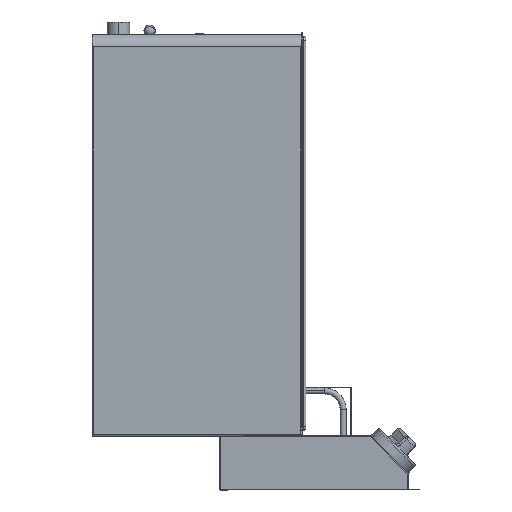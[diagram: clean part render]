
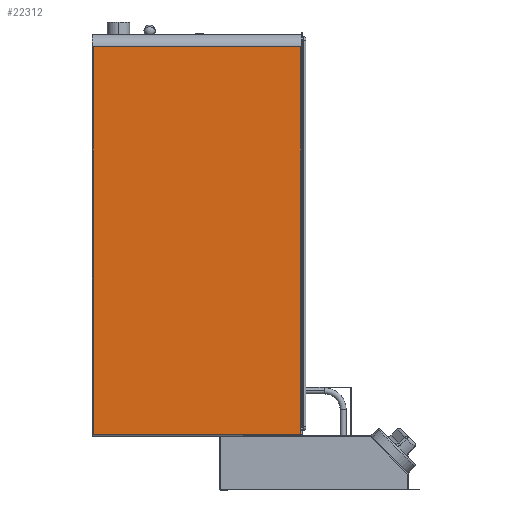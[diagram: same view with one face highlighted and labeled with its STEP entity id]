
A CAD part, left-side view. The second image highlights one B-rep face of the part: STEP entity #22312.
In plain terms, the highlighted planar face has unit normal (-1, 0, 0).
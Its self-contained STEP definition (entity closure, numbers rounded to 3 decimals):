
#59 = EDGE_CURVE ( 'NONE', #25253, #6916, #26630, .T. ) ;
#700 = CARTESIAN_POINT ( 'NONE',  ( -165., -138.263, 1.737 ) ) ;
#953 = LINE ( 'NONE', #29844, #30844 ) ;
#1563 = VECTOR ( 'NONE', #29887, 1000. ) ;
#2252 = CARTESIAN_POINT ( 'NONE',  ( -165., -138.263, 1.737 ) ) ;
#2387 = VERTEX_POINT ( 'NONE', #14229 ) ;
#3390 = PLANE ( 'NONE',  #28379 ) ;
#3840 = ORIENTED_EDGE ( 'NONE', *, *, #59, .F. ) ;
#4169 = DIRECTION ( 'NONE',  ( 0., 0., -1. ) ) ;
#4637 = EDGE_CURVE ( 'NONE', #2387, #6916, #23413, .T. ) ;
#5051 = CARTESIAN_POINT ( 'NONE',  ( -165., -138.263, 519. ) ) ;
#5145 = DIRECTION ( 'NONE',  ( 0., 0., 1. ) ) ;
#6916 = VERTEX_POINT ( 'NONE', #9739 ) ;
#8437 = CARTESIAN_POINT ( 'NONE',  ( -165., 138.263, 519. ) ) ;
#9739 = CARTESIAN_POINT ( 'NONE',  ( -165., 138.263, 1.737 ) ) ;
#10236 = EDGE_CURVE ( 'NONE', #19069, #2387, #953, .T. ) ;
#10372 = DIRECTION ( 'NONE',  ( 0., 1., 0. ) ) ;
#13047 = CARTESIAN_POINT ( 'NONE',  ( -165., 0., 0. ) ) ;
#14229 = CARTESIAN_POINT ( 'NONE',  ( -165., 138.263, 519. ) ) ;
#14672 = CARTESIAN_POINT ( 'NONE',  ( -165., 140., 1.737 ) ) ;
#15806 = EDGE_LOOP ( 'NONE', ( #17271, #23014, #30778, #3840 ) ) ;
#17271 = ORIENTED_EDGE ( 'NONE', *, *, #24113, .T. ) ;
#18621 = VECTOR ( 'NONE', #5145, 1000. ) ;
#19069 = VERTEX_POINT ( 'NONE', #5051 ) ;
#20317 = VECTOR ( 'NONE', #10372, 1000. ) ;
#22312 = ADVANCED_FACE ( 'NONE', ( #25023 ), #3390, .F. ) ;
#22892 = DIRECTION ( 'NONE',  ( 0., 1., 0. ) ) ;
#23014 = ORIENTED_EDGE ( 'NONE', *, *, #10236, .T. ) ;
#23413 = LINE ( 'NONE', #8437, #1563 ) ;
#24113 = EDGE_CURVE ( 'NONE', #25253, #19069, #26771, .T. ) ;
#25023 = FACE_OUTER_BOUND ( 'NONE', #15806, .T. ) ;
#25253 = VERTEX_POINT ( 'NONE', #2252 ) ;
#26630 = LINE ( 'NONE', #14672, #20317 ) ;
#26771 = LINE ( 'NONE', #700, #18621 ) ;
#28379 = AXIS2_PLACEMENT_3D ( 'NONE', #13047, #30845, #4169 ) ;
#29844 = CARTESIAN_POINT ( 'NONE',  ( -165., -140., 519. ) ) ;
#29887 = DIRECTION ( 'NONE',  ( 0., 0., -1. ) ) ;
#30778 = ORIENTED_EDGE ( 'NONE', *, *, #4637, .T. ) ;
#30844 = VECTOR ( 'NONE', #22892, 1000. ) ;
#30845 = DIRECTION ( 'NONE',  ( 1., 0., 0. ) ) ;
